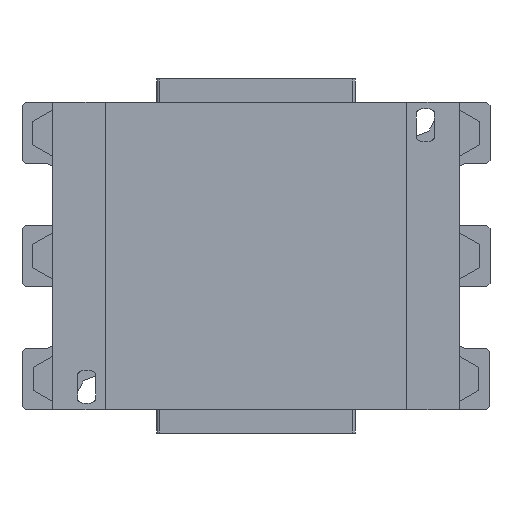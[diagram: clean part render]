
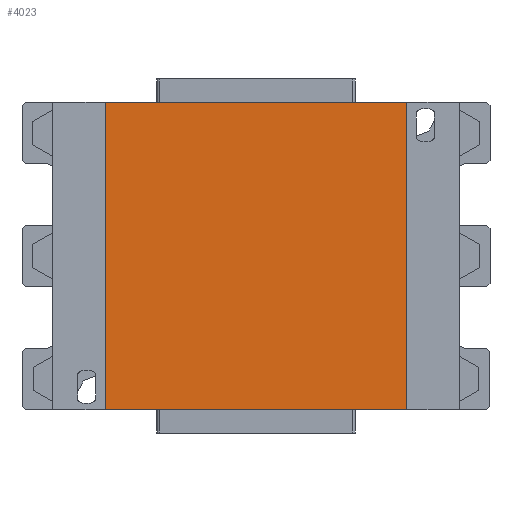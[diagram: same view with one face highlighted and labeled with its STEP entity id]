
A CAD part, left-side view. The second image highlights one B-rep face of the part: STEP entity #4023.
In plain terms, the highlighted planar face has unit normal (-1, 0, 0).
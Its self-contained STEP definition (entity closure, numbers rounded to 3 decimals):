
#3115 = VERTEX_POINT( '', #7444 );
#3775 = EDGE_CURVE( '', #3115, #5313, #8164, .T. );
#3813 = VERTEX_POINT( '', #8204 );
#4023 = ADVANCED_FACE( '', ( #8436 ), #8437, .T. );
#4845 = EDGE_CURVE( '', #6055, #3813, #9325, .T. );
#5313 = VERTEX_POINT( '', #9838 );
#5387 = EDGE_CURVE( '', #3813, #5313, #9921, .T. );
#5751 = EDGE_CURVE( '', #6055, #3115, #10329, .T. );
#6055 = VERTEX_POINT( '', #10667 );
#7444 = CARTESIAN_POINT( '', ( -139.5, 49., -50. ) );
#8164 = LINE( '', #13511, #13512 );
#8204 = CARTESIAN_POINT( '', ( -139.5, -49., 50. ) );
#8436 = FACE_OUTER_BOUND( '', #13885, .T. );
#8437 = PLANE( '', #13886 );
#9325 = LINE( '', #15124, #15125 );
#9838 = CARTESIAN_POINT( '', ( -139.5, -49., -50. ) );
#9921 = LINE( '', #15965, #15966 );
#10329 = LINE( '', #16545, #16546 );
#10667 = CARTESIAN_POINT( '', ( -139.5, 49., 50. ) );
#13511 = CARTESIAN_POINT( '', ( -139.5, 49., -50. ) );
#13512 = VECTOR( '', #19394, 1. );
#13885 = EDGE_LOOP( '', ( #19689, #19690, #19691, #19692 ) );
#13886 = AXIS2_PLACEMENT_3D( '', #19693, #19694, #19695 );
#15124 = CARTESIAN_POINT( '', ( -139.5, 49., 50. ) );
#15125 = VECTOR( '', #20500, 1. );
#15965 = CARTESIAN_POINT( '', ( -139.5, -49., 50. ) );
#15966 = VECTOR( '', #21127, 1. );
#16545 = CARTESIAN_POINT( '', ( -139.5, 49., 50. ) );
#16546 = VECTOR( '', #21680, 1. );
#19394 = DIRECTION( '', ( 0., -1., 0. ) );
#19689 = ORIENTED_EDGE( '', *, *, #3775, .T. );
#19690 = ORIENTED_EDGE( '', *, *, #5387, .F. );
#19691 = ORIENTED_EDGE( '', *, *, #4845, .F. );
#19692 = ORIENTED_EDGE( '', *, *, #5751, .T. );
#19693 = CARTESIAN_POINT( '', ( -139.5, 49., 50. ) );
#19694 = DIRECTION( '', ( -1., 0., 0. ) );
#19695 = DIRECTION( '', ( 0., 1., 0. ) );
#20500 = DIRECTION( '', ( 0., -1., 0. ) );
#21127 = DIRECTION( '', ( 0., 0., -1. ) );
#21680 = DIRECTION( '', ( 0., 0., -1. ) );
